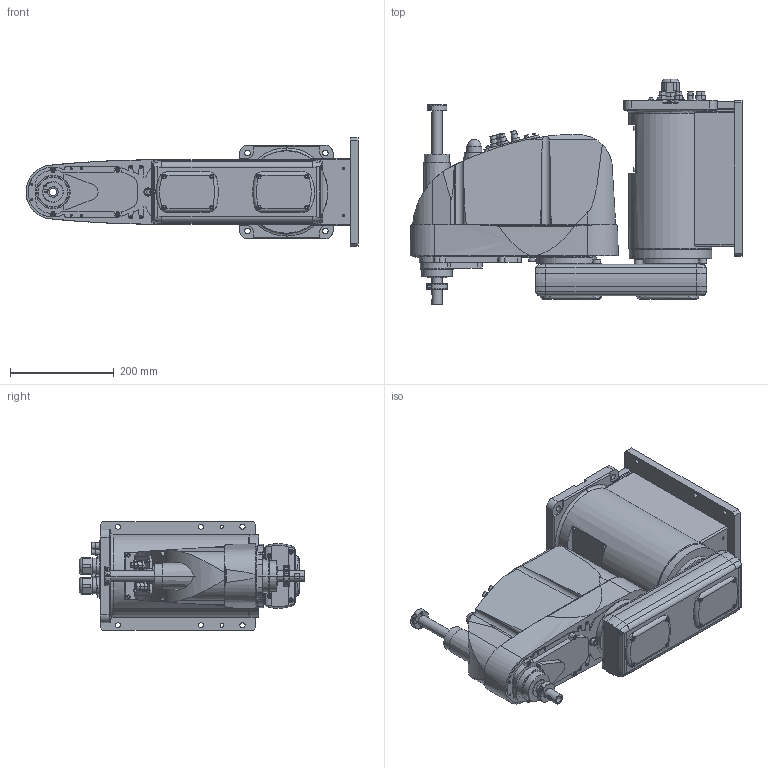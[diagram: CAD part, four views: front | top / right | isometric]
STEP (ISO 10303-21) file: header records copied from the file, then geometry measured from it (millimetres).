
FILE_DESCRIPTION( ( '' ), '1' );
FILE_NAME( '//expscmdclustefs.cadenas.external/client_exchange/iodir/jobs/output/wkb51533259_no0/STEP/G6_451SW_2_14b.stp', '2012-11-23T08:44:27', ( '' ), ( '' ), ' ', ' ', ' ' );
FILE_SCHEMA( ( 'automotive_design' ) );
Length unit declared in the file: millimetre
Products named in the file (4): 1; 2; 3; 4
Bounding box: 640 x 434.5 x 210 mm (x, y, z)
Volume: 20383759.9 mm3; surface area: 906135.5 mm2
Topology: 4 solids, 4 shells, 1654 faces, 4054 edges, 2602 vertices
Faces by surface type: plane 852, cylinder 566, cone 204, torus 31, sphere 1
Entity records: 98123 total; most frequent: CARTESIAN_POINT 11807, DIRECTION 8522, STYLED_ITEM 8288, PRESENTATION_STYLE_ASSIGNMENT 8288, COLOUR_RGB 8288, ORIENTED_EDGE 8056, EDGE_CURVE 4028, CURVE_STYLE 4028
